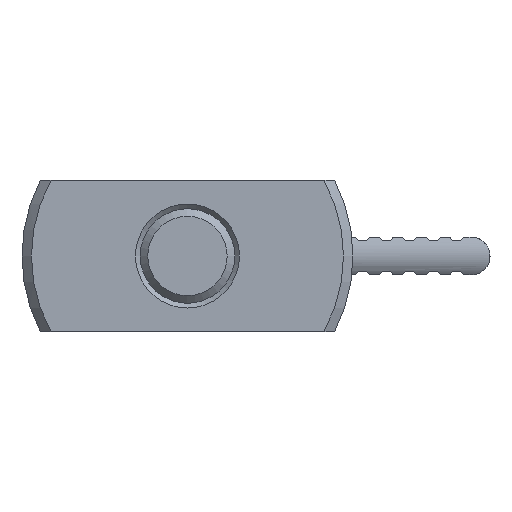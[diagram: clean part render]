
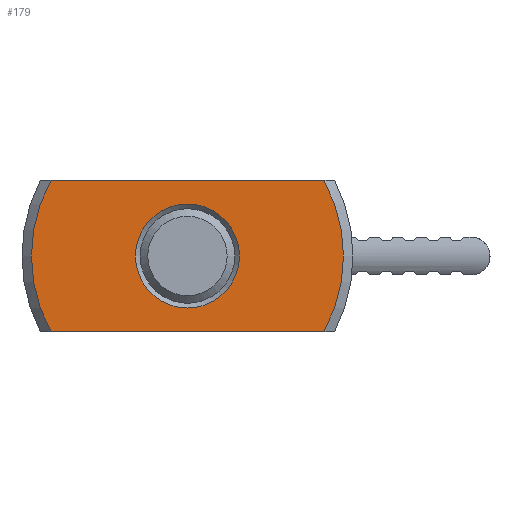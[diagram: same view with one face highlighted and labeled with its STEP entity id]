
A CAD part, front view. The second image highlights one B-rep face of the part: STEP entity #179.
In plain terms, the highlighted planar face has unit normal (0, -1, 0).
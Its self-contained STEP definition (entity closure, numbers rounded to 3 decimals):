
#179 = ADVANCED_FACE( '', ( #301, #302 ), #303, .F. );
#301 = FACE_BOUND( '', #542, .T. );
#302 = FACE_OUTER_BOUND( '', #543, .T. );
#303 = PLANE( '', #544 );
#542 = EDGE_LOOP( '', ( #826 ) );
#543 = EDGE_LOOP( '', ( #827, #828, #829, #830 ) );
#544 = AXIS2_PLACEMENT_3D( '', #831, #832, #833 );
#826 = ORIENTED_EDGE( '', *, *, #1561, .F. );
#827 = ORIENTED_EDGE( '', *, *, #1568, .T. );
#828 = ORIENTED_EDGE( '', *, *, #1569, .T. );
#829 = ORIENTED_EDGE( '', *, *, #1570, .T. );
#830 = ORIENTED_EDGE( '', *, *, #1571, .T. );
#831 = CARTESIAN_POINT( '', ( 16.5, 0., 0. ) );
#832 = DIRECTION( '', ( 0., 1., 0. ) );
#833 = DIRECTION( '', ( 0., 0., 1. ) );
#1561 = EDGE_CURVE( '', #1818, #1818, #1819, .T. );
#1568 = EDGE_CURVE( '', #1832, #1833, #1834, .T. );
#1569 = EDGE_CURVE( '', #1833, #1835, #1836, .T. );
#1570 = EDGE_CURVE( '', #1835, #1837, #1838, .T. );
#1571 = EDGE_CURVE( '', #1837, #1832, #1839, .T. );
#1818 = VERTEX_POINT( '', #2386 );
#1819 = CIRCLE( '', #2387, 5.5 );
#1832 = VERTEX_POINT( '', #2400 );
#1833 = VERTEX_POINT( '', #2401 );
#1834 = CIRCLE( '', #2402, 16.5 );
#1835 = VERTEX_POINT( '', #2403 );
#1836 = LINE( '', #2404, #2405 );
#1837 = VERTEX_POINT( '', #2406 );
#1838 = CIRCLE( '', #2407, 16.5 );
#1839 = LINE( '', #2408, #2409 );
#2386 = CARTESIAN_POINT( '', ( 0., 0., -5.5 ) );
#2387 = AXIS2_PLACEMENT_3D( '', #3007, #3008, #3009 );
#2400 = CARTESIAN_POINT( '', ( -14.431, 0., 8. ) );
#2401 = CARTESIAN_POINT( '', ( -14.431, 0., -8. ) );
#2402 = AXIS2_PLACEMENT_3D( '', #3028, #3029, #3030 );
#2403 = CARTESIAN_POINT( '', ( 14.431, 0., -8. ) );
#2404 = CARTESIAN_POINT( '', ( 16.5, 0., -8. ) );
#2405 = VECTOR( '', #3031, 1000. );
#2406 = CARTESIAN_POINT( '', ( 14.431, 0., 8. ) );
#2407 = AXIS2_PLACEMENT_3D( '', #3032, #3033, #3034 );
#2408 = CARTESIAN_POINT( '', ( 16.5, 0., 8. ) );
#2409 = VECTOR( '', #3035, 1000. );
#3007 = CARTESIAN_POINT( '', ( 0., 0., 0. ) );
#3008 = DIRECTION( '', ( 0., -1., 0. ) );
#3009 = DIRECTION( '', ( 0., 0., -1. ) );
#3028 = CARTESIAN_POINT( '', ( 0., 0., 0. ) );
#3029 = DIRECTION( '', ( 0., -1., 0. ) );
#3030 = DIRECTION( '', ( 0., 0., -1. ) );
#3031 = DIRECTION( '', ( 1., 0., 0. ) );
#3032 = CARTESIAN_POINT( '', ( 0., 0., 0. ) );
#3033 = DIRECTION( '', ( 0., -1., 0. ) );
#3034 = DIRECTION( '', ( 0., 0., -1. ) );
#3035 = DIRECTION( '', ( -1., 0., 0. ) );
